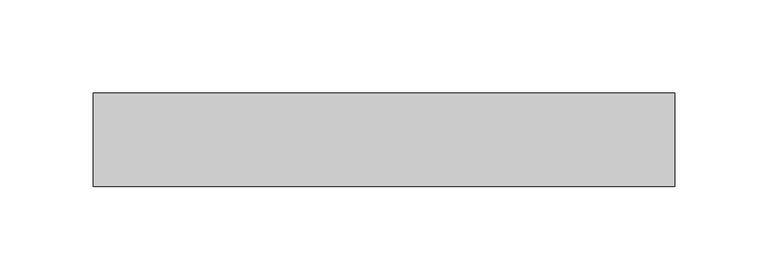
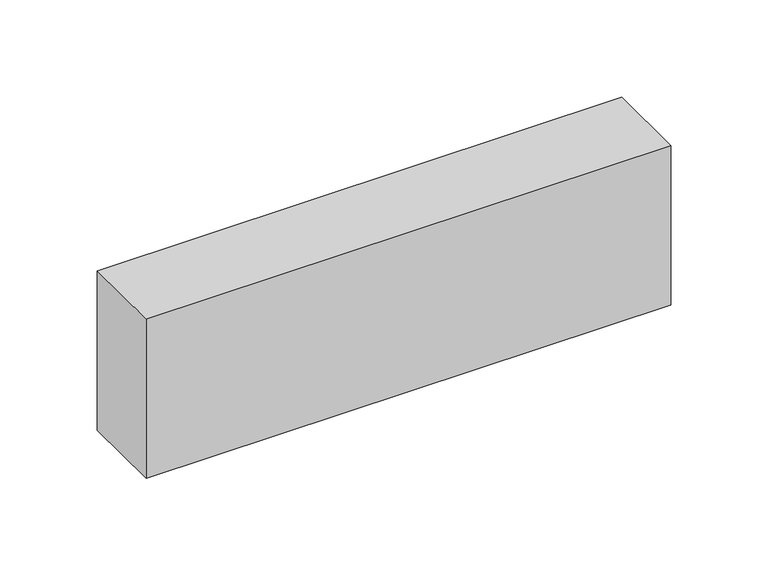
"""IFC4 building model written with IfcOpenShell, lengths in millimetres: light fixture geometry, ZYR_06.02.05 Tira Led : Tira Led 03."""

from ifc_helpers import new_model, si_unit, origin, origin_with_axes, place, context, project, spatial, polyline, outline, extrude, source, transform, mapped, element, save


def light_fixture_d1c418e5(model_context):
    return source(origin(), model_context, "Body", "SweptSolid", [
        extrude(outline(polyline([(155.5575446, 25.0), (155.5575446, -25.0), (-155.5575446, -25.0), (-155.5575446, 25.0), (155.5575446, 25.0)])), origin_with_axes(), (0.0, 0.0, 1.0), 100.0),
    ])


if __name__ == "__main__":
    model = new_model("IFC4")
    model_context = context("Model", 3, world=origin())
    ifc_project = project(units=[si_unit("LENGTHUNIT", "METRE", prefix="MILLI")], contexts=[model_context])
    site = spatial("IfcSite", under=ifc_project)
    building = spatial("IfcBuilding", under=site)
    placement = place(None, origin())
    light_fixture_shape = light_fixture_d1c418e5(model_context)
    element("IfcLightFixture", 1, ObjectType="ZYR_06.02.05 Tira Led : Tira Led 03", at=placement, inside=building, context=model_context, shape_type="MappedRepresentation", body=[
        mapped(light_fixture_shape, transform((0.0, 0.0, 0.0), x_axis=(1.0, 0.0, 0.0), y_axis=(0.0, 1.0, 0.0), z_axis=(0.0, 0.0, 1.0))),
    ])
    save(model, "model.ifc")
